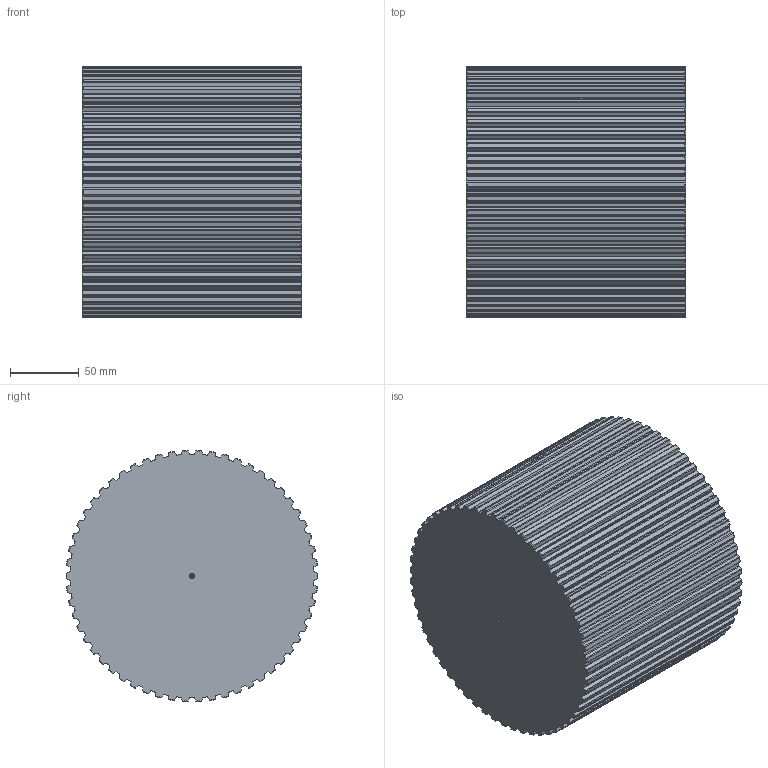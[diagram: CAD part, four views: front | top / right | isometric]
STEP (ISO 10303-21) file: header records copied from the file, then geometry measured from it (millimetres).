
FILE_DESCRIPTION(('STEP AP203'),'1');
FILE_NAME('barat_58.stp','2022-04-12T09:42:57',('TraceParts'),('TraceParts S.A.'),'Spatial InterOp 3D',' ',' ');
FILE_SCHEMA(('CONFIG_CONTROL_DESIGN'));
Length unit declared in the file: millimetre
Products named in the file (1): 1
Bounding box: 160 x 183.62 x 183.49 mm (x, y, z)
Volume: 4109323.3 mm3; surface area: 172422.2 mm2
Topology: 1 solids, 1 shells, 600 faces, 1786 edges, 1186 vertices
Faces by surface type: cylinder 354, cone 128, plane 118
Entity records: 21698 total; most frequent: CARTESIAN_POINT 6121, ORIENTED_EDGE 3564, DIRECTION 3124, EDGE_CURVE 1782, AXIS2_PLACEMENT_3D 1205, VERTEX_POINT 1186, LINE 714, VECTOR 714
